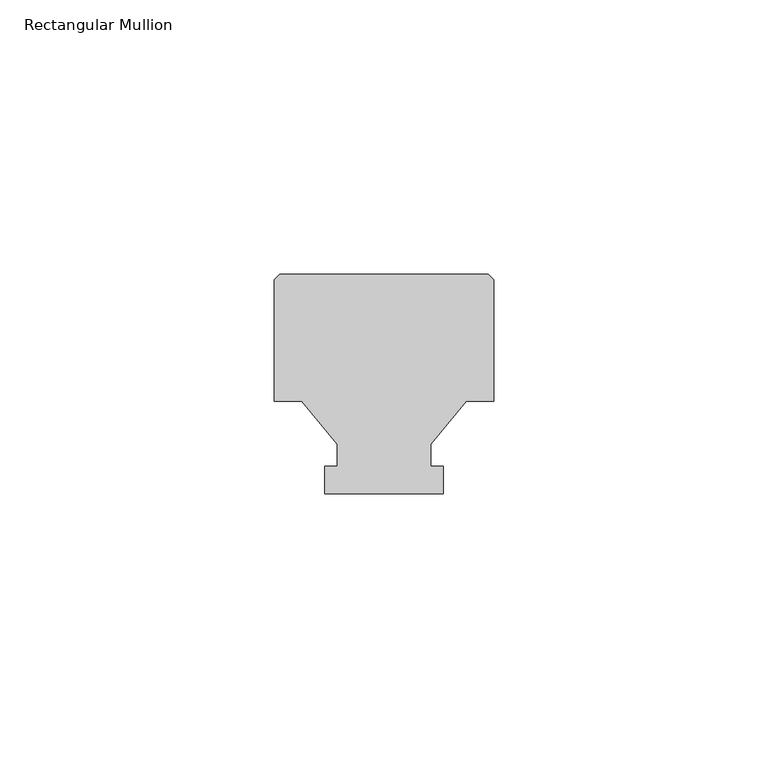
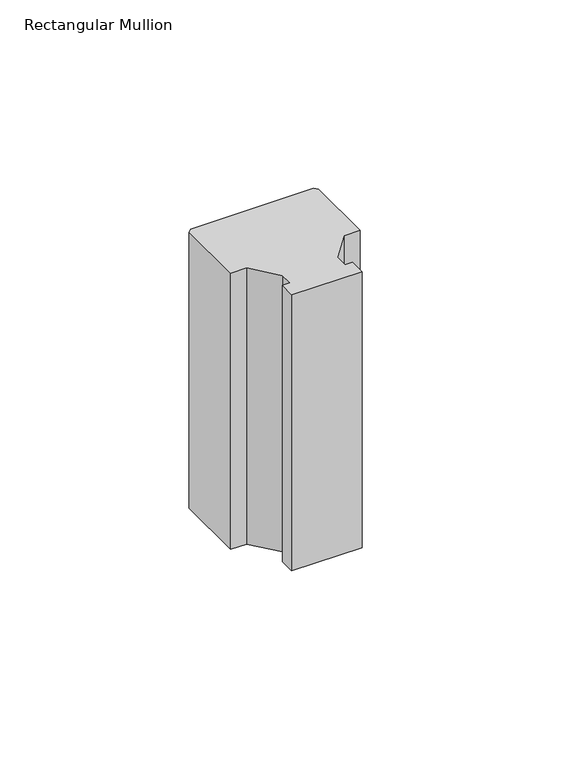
"""IFC4 building model written with IfcOpenShell, lengths in millimetres: member geometry, Rectangular Mullion : Batten_Timber_Modinex_Austratus_Grid_Fin_40x40_AlaskanYellowCedar."""

from ifc_helpers import new_model, si_unit, frame, origin, place, context, project, spatial, polyline, outline, extrude, source, transform, mapped, element, save


def rectangular_mullion_196cc38a(model_context):
    return source(origin(), model_context, "Body", "SweptSolid", [
        extrude(outline(polyline([(-20.0, 16.8079815), (-20.0, 39.0), (-19.0, 40.0), (19.0, 40.0), (20.0, 39.0), (20.0, 16.8079815), (15.0, 16.8079815), (8.5, 9.0), (8.5, 5.0), (10.812195, 5.0), (10.812195, 0.0), (-10.812195, 0.0), (-10.812195, 5.0), (-8.5, 5.0), (-8.5, 9.0), (-15.0, 16.8079815), (-20.0, 16.8079815)])), frame((0.0, 0.0, -90.0000003), z_axis=(0.0, 0.0, 1.0), x_axis=(1.0, 0.0, 0.0)), (0.0, 0.0, 1.0), 90.0000003),
    ])


if __name__ == "__main__":
    model = new_model("IFC4")
    model_context = context("Model", 3, world=origin())
    ifc_project = project(units=[si_unit("LENGTHUNIT", "METRE", prefix="MILLI")], contexts=[model_context])
    site = spatial("IfcSite", under=ifc_project)
    building = spatial("IfcBuilding", under=site)
    placement = place(None, origin())
    rectangular_mullion_shape = rectangular_mullion_196cc38a(model_context)
    element("IfcMember", 1, ObjectType="Rectangular Mullion : Batten_Timber_Modinex_Austratus_Grid_Fin_40x40_AlaskanYellowCedar", at=placement, inside=building, context=model_context, shape_type="MappedRepresentation", body=[
        mapped(rectangular_mullion_shape, transform((0.0, 0.0, 0.0), x_axis=(1.0, 0.0, 0.0), y_axis=(0.0, 1.0, 0.0), z_axis=(0.0, 0.0, 1.0))),
    ])
    save(model, "model.ifc")
